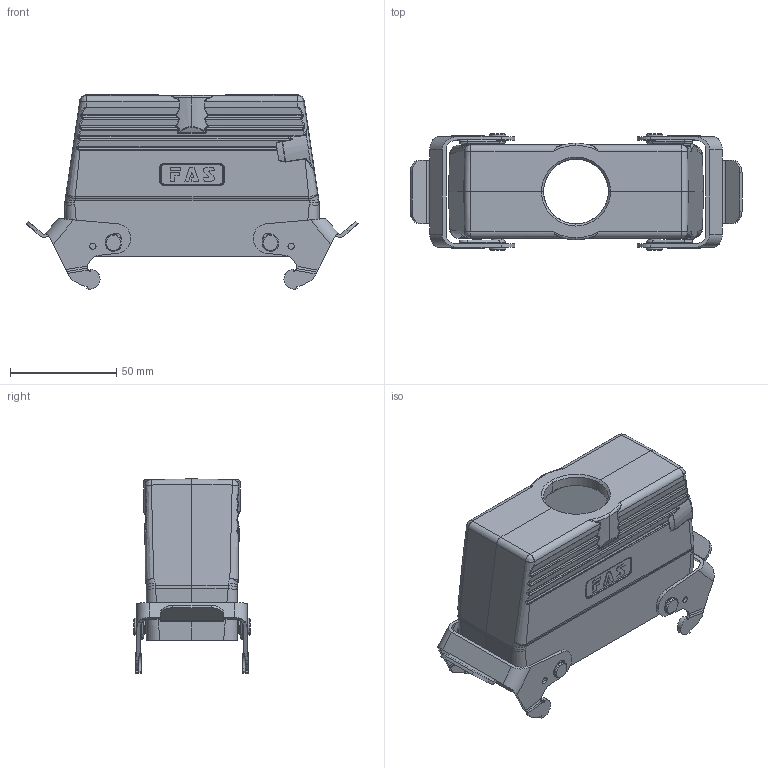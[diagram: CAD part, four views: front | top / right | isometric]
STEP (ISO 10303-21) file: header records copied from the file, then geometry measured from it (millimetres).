
FILE_DESCRIPTION (( 'STEP AP203' ), '1' );
FILE_NAME ('H24B-TBFH-M25&32&40.STEP', '2020-11-21T06:09:45', ( '' ), ( '' ), 'SwSTEP 2.0', 'SolidWorks 2016', '' );
FILE_SCHEMA (( 'CONFIG_CONTROL_DESIGN' ));
Length unit declared in the file: millimetre
Products named in the file (6): 24bcaixinshuangkou; H24B-TBFH-M25&32&40; tanhuang; 24b_high_hoods; maoding; jinshushuangkou
Assembly tree (8 placements, depth 3):
  H24B-TBFH-M25&32&40
    jinshushuangkou  x2
      24bcaixinshuangkou
      tanhuang
      maoding
    24b_high_hoods
Bounding box: 156.49 x 55 x 91.56 mm (x, y, z)
Volume: 118217 mm3; surface area: 64441 mm2
Topology: 11 solids, 11 shells, 947 faces, 2322 edges, 1429 vertices
Faces by surface type: cylinder 345, bspline 284, plane 257, cone 61
Entity records: 33602 total; most frequent: CARTESIAN_POINT 17872, ORIENTED_EDGE 3612, DIRECTION 2482, EDGE_CURVE 1806, VERTEX_POINT 1103, AXIS2_PLACEMENT_3D 900, EDGE_LOOP 765, ADVANCED_FACE 733
